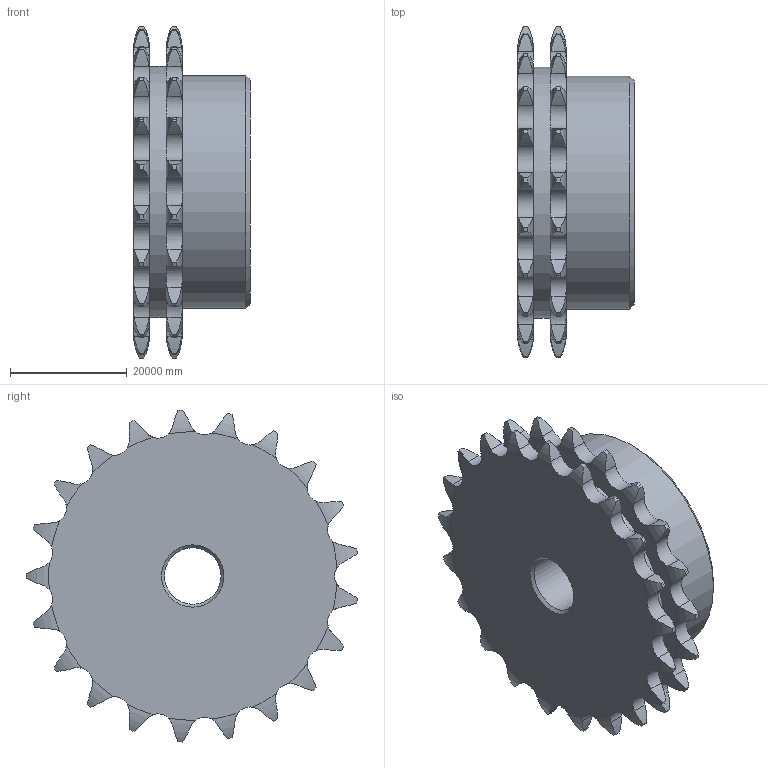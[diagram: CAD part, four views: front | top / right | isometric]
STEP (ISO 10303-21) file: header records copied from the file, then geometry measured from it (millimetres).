
FILE_DESCRIPTION(/* description */ (''),/* implementation_level */ '2;1');
FILE_NAME(/* name */ 'C:\Users\stagistaCAD\Desktop\10208021.stp',/* time_stamp */ '2018-06-12T09:40:39+02:00',/* author */ ('stagistacad'),/* organization */ (''),/* preprocessor_version */ 'ST-DEVELOPER v15.6',/* originating_system */ 'Autodesk Inventor 2015',/* authorisation */ '');
FILE_SCHEMA (('AUTOMOTIVE_DESIGN { 1 0 10303 214 3 1 1 }'));
Length unit declared in the file: millimetre
Products named in the file (1): 10208021
Bounding box: 20000 x 56809.36 x 56973.73 mm (x, y, z)
Volume: 28622772701453.2 mm3; surface area: 8905648086.4 mm2
Topology: 1 solids, 1 shells, 273 faces, 801 edges, 533 vertices
Faces by surface type: cylinder 181, torus 84, plane 5, cone 3
Full cylindrical faces by diameter (mm): 9700 x1, 40000 x1, 43080 x1
Entity records: 11010 total; most frequent: CARTESIAN_POINT 4314, ORIENTED_EDGE 1590, DIRECTION 1168, EDGE_CURVE 795, VERTEX_POINT 533, AXIS2_PLACEMENT_3D 495, B_SPLINE_CURVE_WITH_KNOTS 396, EDGE_LOOP 284
